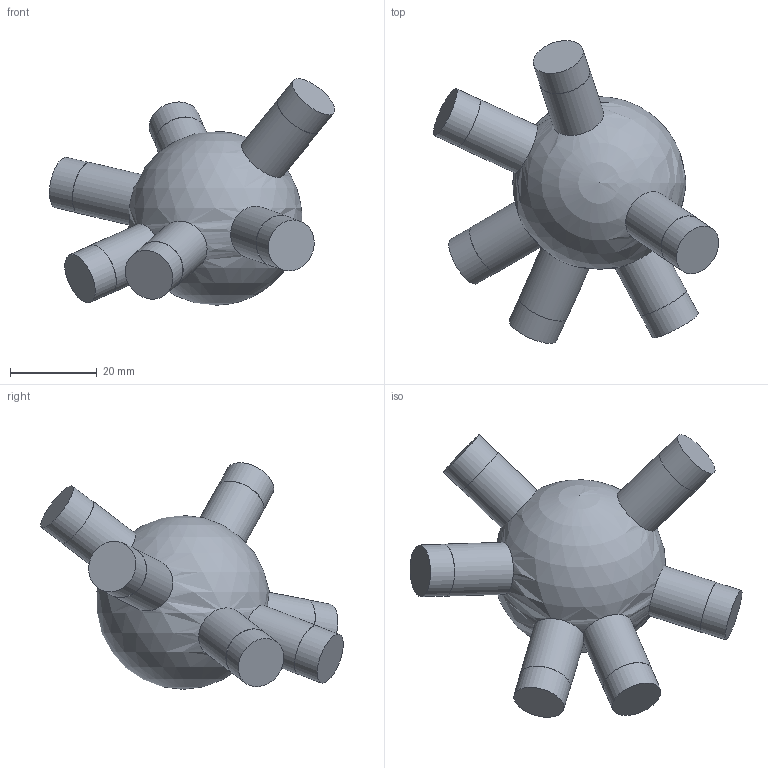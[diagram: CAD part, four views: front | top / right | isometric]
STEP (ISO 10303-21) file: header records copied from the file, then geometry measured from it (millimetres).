
FILE_DESCRIPTION(('Open CASCADE Model'),'2;1');
FILE_NAME('Open CASCADE Shape Model','2026-10-21T12:47:57',('Author'),( 'Open CASCADE'),'Open CASCADE STEP processor 7.9','Open CASCADE 7.9' ,'Unknown');
FILE_SCHEMA(('AUTOMOTIVE_DESIGN { 1 0 10303 214 1 1 1 1 }'));
Length unit declared in the file: millimetre
Products named in the file (1): Open CASCADE STEP translator 7.9 105
Bounding box: 65.63 x 69.63 x 52.14 mm (x, y, z)
Volume: 46417.3 mm3; surface area: 9426.5 mm2
Topology: 1 solids, 1 shells, 25 faces, 43 edges, 29 vertices
Faces by surface type: cylinder 12, plane 12, sphere 1
Full cylindrical faces by diameter (mm): 11.9 x6, 12 x6
Entity records: 1504 total; most frequent: CARTESIAN_POINT 582, DIRECTION 186, ORIENTED_EDGE 80, PCURVE 80, DEFINITIONAL_REPRESENTATION 80, LINE 60, VECTOR 60, AXIS2_PLACEMENT_3D 54
